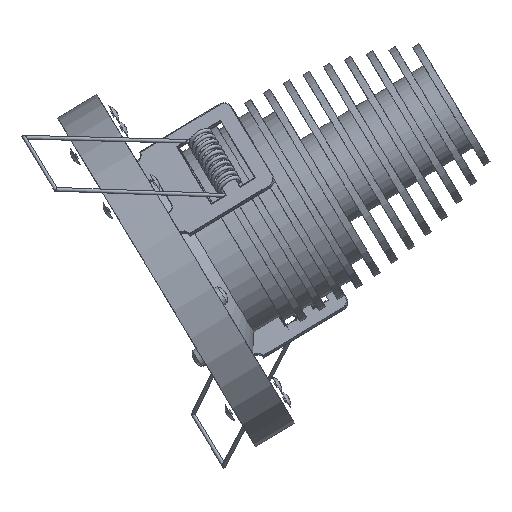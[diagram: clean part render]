
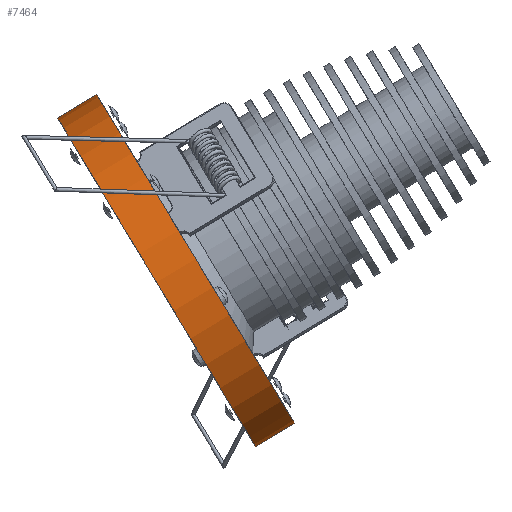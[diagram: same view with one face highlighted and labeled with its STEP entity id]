
A CAD part, left-side view. The second image highlights one B-rep face of the part: STEP entity #7464.
In plain terms, the highlighted cylindrical face has radius 40 mm (diameter 80 mm), a full revolution.
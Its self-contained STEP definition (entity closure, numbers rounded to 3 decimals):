
#590=FACE_OUTER_BOUND('',#1024,.T.);
#1024=EDGE_LOOP('',(#5245,#5246,#5247,#5248,#5249,#5250));
#1489=LINE('',#13902,#2142);
#2142=VECTOR('',#8919,40.);
#2800=CIRCLE('',#7978,40.);
#2801=CIRCLE('',#7979,40.);
#2802=CIRCLE('',#7981,40.);
#2803=CIRCLE('',#7982,40.);
#3188=VERTEX_POINT('',#13895);
#3189=VERTEX_POINT('',#13896);
#3190=VERTEX_POINT('',#13901);
#3191=VERTEX_POINT('',#13903);
#3983=EDGE_CURVE('',#3188,#3189,#2800,.T.);
#3984=EDGE_CURVE('',#3189,#3188,#2801,.T.);
#3986=EDGE_CURVE('',#3189,#3190,#1489,.T.);
#3987=EDGE_CURVE('',#3190,#3191,#2802,.T.);
#3988=EDGE_CURVE('',#3191,#3190,#2803,.T.);
#5245=ORIENTED_EDGE('',*,*,#3983,.F.);
#5246=ORIENTED_EDGE('',*,*,#3984,.F.);
#5247=ORIENTED_EDGE('',*,*,#3986,.T.);
#5248=ORIENTED_EDGE('',*,*,#3987,.T.);
#5249=ORIENTED_EDGE('',*,*,#3988,.T.);
#5250=ORIENTED_EDGE('',*,*,#3986,.F.);
#7310=CYLINDRICAL_SURFACE('',#7980,40.);
#7464=ADVANCED_FACE('',(#590),#7310,.T.);
#7978=AXIS2_PLACEMENT_3D('',#13897,#8912,#8913);
#7979=AXIS2_PLACEMENT_3D('',#13898,#8914,#8915);
#7980=AXIS2_PLACEMENT_3D('',#13900,#8917,#8918);
#7981=AXIS2_PLACEMENT_3D('',#13904,#8920,#8921);
#7982=AXIS2_PLACEMENT_3D('',#13905,#8922,#8923);
#8912=DIRECTION('center_axis',(0.,0.857,-0.516));
#8913=DIRECTION('ref_axis',(0.866,-0.258,-0.428));
#8914=DIRECTION('center_axis',(0.,0.857,-0.516));
#8915=DIRECTION('ref_axis',(0.866,-0.258,-0.428));
#8917=DIRECTION('center_axis',(0.,0.857,-0.516));
#8918=DIRECTION('ref_axis',(0.866,-0.258,-0.428));
#8919=DIRECTION('',(0.,-0.857,0.516));
#8920=DIRECTION('center_axis',(0.,0.857,-0.516));
#8921=DIRECTION('ref_axis',(0.866,-0.258,-0.428));
#8922=DIRECTION('center_axis',(0.,0.857,-0.516));
#8923=DIRECTION('ref_axis',(0.866,-0.258,-0.428));
#13895=CARTESIAN_POINT('',(11.834,-146.227,-18.666));
#13896=CARTESIAN_POINT('',(-57.448,-125.584,15.597));
#13897=CARTESIAN_POINT('Origin',(-22.807,-135.906,-1.535));
#13898=CARTESIAN_POINT('Origin',(-22.807,-135.906,-1.535));
#13900=CARTESIAN_POINT('Origin',(-22.807,-139.974,0.917));
#13901=CARTESIAN_POINT('',(-57.448,-133.722,20.499));
#13902=CARTESIAN_POINT('',(-57.448,-129.653,18.048));
#13903=CARTESIAN_POINT('',(11.834,-154.364,-13.763));
#13904=CARTESIAN_POINT('Origin',(-22.807,-144.043,3.368));
#13905=CARTESIAN_POINT('Origin',(-22.807,-144.043,3.368));
